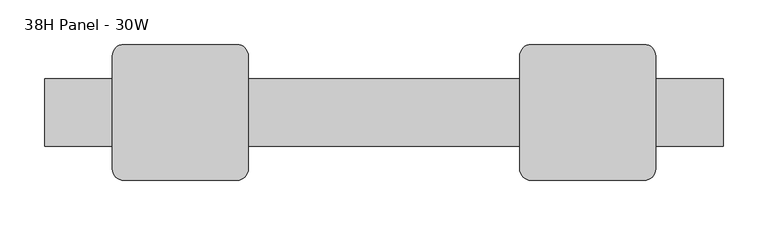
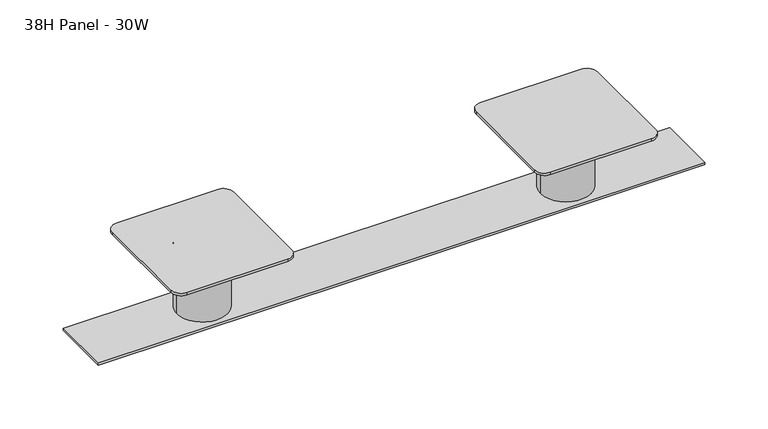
"""IFC4 building model written with IfcOpenShell, lengths in millimetres: furniture geometry, Steelcase - Montage - Healthcare Components - Upmount Transaction Top Brackets : 38H Panel - 30W."""

from ifc_helpers import new_model, si_unit, point, frame, frame_2d, origin, place, context, project, spatial, polyline, circle_curve, trimmed, segment, composite_curve, outline, extrude, source, transform, mapped, element, save


def furniture_38h_panel_30w_608f1e22(model_context):
    return source(origin(), model_context, "Body", "SweptSolid", [
        extrude(outline(composite_curve([segment(trimmed(circle_curve(frame_2d((38.1, 0.0)), 31.75), [point((6.35, 0.0))], [point((69.85, 0.0))], False, "CARTESIAN"), True, "CONTINUOUS"), segment(trimmed(circle_curve(frame_2d((38.1, 0.0)), 31.75), [point((69.85, 0.0))], [point((6.35, 0.0))], False, "CARTESIAN"), True, "CONTINUOUS")], self_intersect=False)), frame((0.0, 0.0, 962.0249758), z_axis=(0.0, 0.0, 1.0), x_axis=(1.0, 0.0, 0.0)), (0.0, 0.0, 1.0), 82.5500242),
        extrude(outline(composite_curve([segment(trimmed(circle_curve(frame_2d((495.3, 0.0)), 31.75), [point((463.55, 0.0))], [point((527.05, 0.0))], False, "CARTESIAN"), True, "CONTINUOUS"), segment(trimmed(circle_curve(frame_2d((495.3, 0.0)), 31.75), [point((527.05, 0.0))], [point((463.55, 0.0))], False, "CARTESIAN"), True, "CONTINUOUS")], self_intersect=False)), frame((0.0, 0.0, 962.0249758), z_axis=(0.0, 0.0, 1.0), x_axis=(1.0, 0.0, 0.0)), (0.0, 0.0, 1.0), 82.5500242),
        extrude(outline(composite_curve([segment(trimmed(circle_curve(frame_2d((101.6, 63.5)), 12.7), [point((101.6, 76.2))], [point((114.3, 63.5))], False, "CARTESIAN"), True, "CONTINUOUS"), segment(polyline([(114.3, 63.5), (114.3, -63.5)]), True, "CONTINUOUS"), segment(trimmed(circle_curve(frame_2d((101.6, -63.5)), 12.7), [point((114.3, -63.5))], [point((101.6, -76.2))], False, "CARTESIAN"), True, "CONTINUOUS"), segment(polyline([(101.6, -76.2), (-25.4, -76.2)]), True, "CONTINUOUS"), segment(trimmed(circle_curve(frame_2d((-25.4, -63.5)), 12.7), [point((-25.4, -76.2))], [point((-38.1, -63.5))], False, "CARTESIAN"), True, "CONTINUOUS"), segment(polyline([(-38.1, -63.5), (-38.1, 63.5)]), True, "CONTINUOUS"), segment(trimmed(circle_curve(frame_2d((-25.4, 63.5)), 12.7), [point((-38.1, 63.5))], [point((-25.4, 76.2))], False, "CARTESIAN"), True, "CONTINUOUS"), segment(polyline([(-25.4, 76.2), (101.6, 76.2)]), True, "CONTINUOUS")], self_intersect=False)), frame((0.0, 0.0, 1044.575), z_axis=(0.0, 0.0, 1.0), x_axis=(1.0, 0.0, 0.0)), (0.0, 0.0, 1.0), 3.1749758),
        extrude(outline(composite_curve([segment(polyline([(431.8, 76.2), (558.8, 76.2)]), True, "CONTINUOUS"), segment(trimmed(circle_curve(frame_2d((558.8, 63.5)), 12.7), [point((558.8, 76.2))], [point((571.5, 63.5))], False, "CARTESIAN"), True, "CONTINUOUS"), segment(polyline([(571.5, 63.5), (571.5, -63.5)]), True, "CONTINUOUS"), segment(trimmed(circle_curve(frame_2d((558.8, -63.5)), 12.7), [point((571.5, -63.5))], [point((558.8, -76.2))], False, "CARTESIAN"), True, "CONTINUOUS"), segment(polyline([(558.8, -76.2), (431.8, -76.2)]), True, "CONTINUOUS"), segment(trimmed(circle_curve(frame_2d((431.8, -63.5)), 12.7), [point((431.8, -76.2))], [point((419.1, -63.5))], False, "CARTESIAN"), True, "CONTINUOUS"), segment(polyline([(419.1, -63.5), (419.1, 63.5)]), True, "CONTINUOUS"), segment(trimmed(circle_curve(frame_2d((431.8, 63.5)), 12.7), [point((419.1, 63.5))], [point((431.8, 76.2))], False, "CARTESIAN"), True, "CONTINUOUS")], self_intersect=False)), frame((0.0, 0.0, 1044.575), z_axis=(0.0, 0.0, 1.0), x_axis=(1.0, 0.0, 0.0)), (0.0, 0.0, 1.0), 3.1749758),
        extrude(outline(polyline([(647.7, -38.1), (-114.3, -38.1), (-114.3, 38.1), (647.7, 38.1), (647.7, -38.1)])), frame((0.0, 0.0, 958.85), z_axis=(0.0, 0.0, 1.0), x_axis=(1.0, 0.0, 0.0)), (0.0, 0.0, 1.0), 3.1749758),
    ])


if __name__ == "__main__":
    model = new_model("IFC4")
    model_context = context("Model", 3, world=origin())
    ifc_project = project(units=[si_unit("LENGTHUNIT", "METRE", prefix="MILLI")], contexts=[model_context])
    site = spatial("IfcSite", under=ifc_project)
    building = spatial("IfcBuilding", under=site)
    placement = place(None, origin())
    furniture_38h_panel_30w_shape = furniture_38h_panel_30w_608f1e22(model_context)
    element("IfcFurniture", 1, ObjectType="Steelcase - Montage - Healthcare Components - Upmount Transaction Top Brackets : 38H Panel - 30W", at=placement, inside=building, context=model_context, shape_type="MappedRepresentation", body=[
        mapped(furniture_38h_panel_30w_shape, transform((0.0, 0.0, 0.0), x_axis=(1.0, 0.0, 0.0), y_axis=(0.0, 1.0, 0.0), z_axis=(0.0, 0.0, 1.0))),
    ])
    save(model, "model.ifc")
